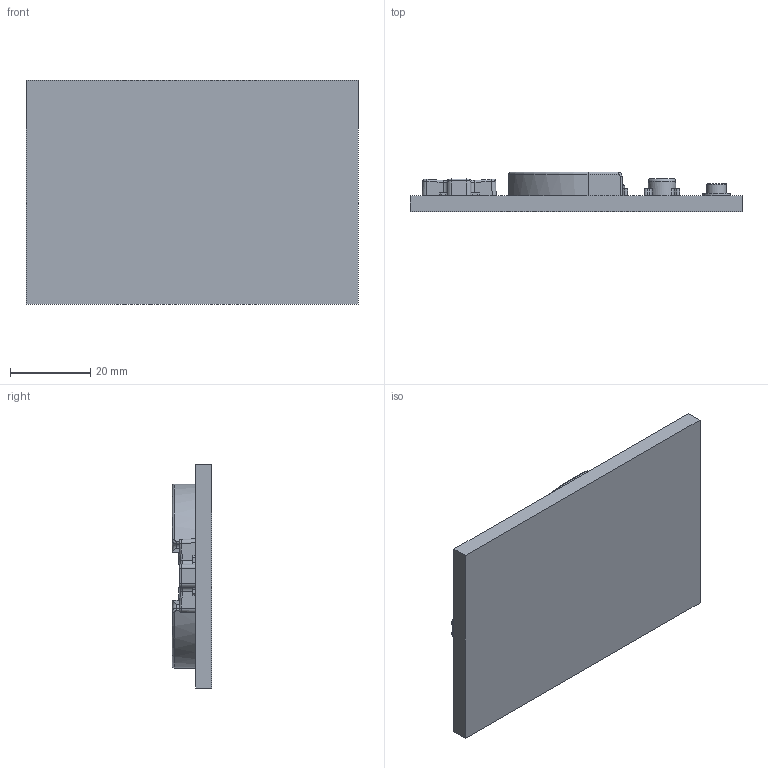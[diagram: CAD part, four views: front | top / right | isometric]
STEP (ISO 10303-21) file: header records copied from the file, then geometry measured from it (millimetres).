
FILE_DESCRIPTION(/* description */ (''),/* implementation_level */ '2;1');
FILE_NAME(/* name */ 'Mold Positive - Polished 6061.step',/* time_stamp */ '2022-11-03T21:40:02+09:00',/* author */ (''),/* organization */ (''),/* preprocessor_version */ 'ST-DEVELOPER v19.2',/* originating_system */ 'Autodesk Translation Framework v11.17.0.187',/* authorisation */ '');
FILE_SCHEMA (('AUTOMOTIVE_DESIGN { 1 0 10303 214 3 1 1 }'));
Length unit declared in the file: millimetre
Products named in the file (1): Mold Base
Bounding box: 83 x 9.9 x 56 mm (x, y, z)
Volume: 22099.7 mm3; surface area: 12334.9 mm2
Topology: 1 solids, 1 shells, 405 faces, 1092 edges, 721 vertices
Faces by surface type: plane 219, cylinder 121, bspline 25, torus 23, sphere 12, cone 5
Full cylindrical faces by diameter (mm): 1.5 x4, 4.9 x3, 6.8 x4, 6.9 x3, 7.3 x1
Entity records: 14424 total; most frequent: CARTESIAN_POINT 3950, DIRECTION 2250, ORIENTED_EDGE 2184, EDGE_CURVE 1092, AXIS2_PLACEMENT_3D 827, VERTEX_POINT 721, LINE 596, VECTOR 596
